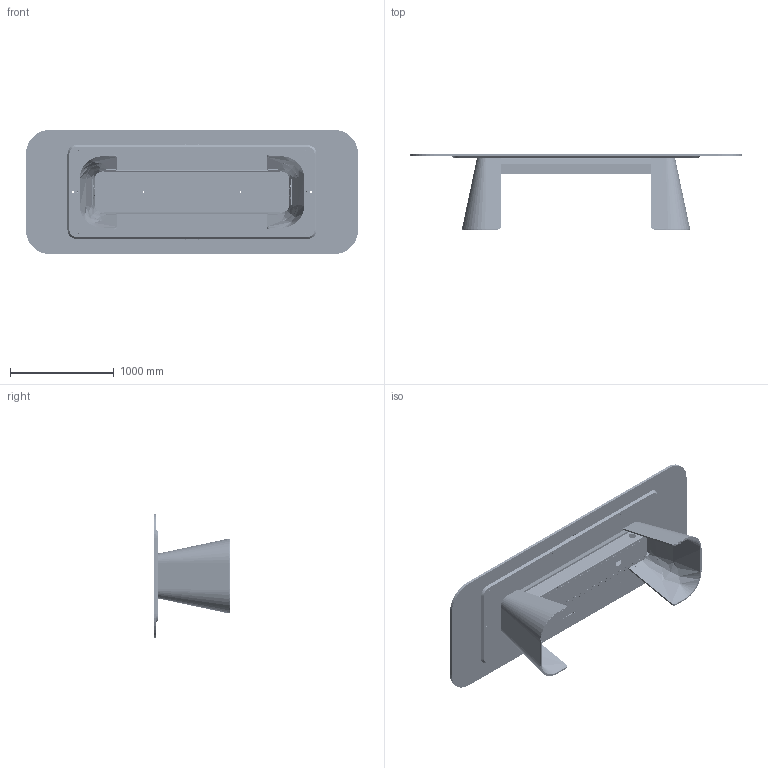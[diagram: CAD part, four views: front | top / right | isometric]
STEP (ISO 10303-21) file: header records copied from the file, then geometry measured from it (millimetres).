
FILE_DESCRIPTION (( 'STEP AP214' ), '1' );
FILE_NAME ('Alta 3200mm x 1200mm Boardroom Table.STEP', '2024-05-14T12:35:56', ( '' ), ( '' ), 'SwSTEP 2.0', 'SolidWorks 2023', '' );
FILE_SCHEMA (( 'AUTOMOTIVE_DESIGN' ));
Length unit declared in the file: millimetre
Products named in the file (24): socket countersunk head screw_bsi-Craig-SurfacePro_1901150; 747 0001_747 0008; 747 1021_1030_747 1028; HPS-6.5-15-7.5-PA; socket countersunk head screw_bsi-Craig-SurfacePro_2691180; 747 1100_1110_747 1104; 747 0030_747 0036; 747 0033_747 0037; LOW011_LOW011; 747 0100_0110_747 0101; 262_96_222; 747 1001_747 1008; socket countersunk head screw_bsi-Precision5820-1-2_1901310; 3351032_3351032; 747 1011_1014_747 1018; 747 0006_0007_747 0011; 747 0017_0029_747 0025; 747 1003_747 1068; 3351000_3351000; 747 1111_1120_747 1115; Alta 3200mm x 1200mm Boardroom Table; 3351030_3351030; SSBF-M8-16-10_9; SSBF-M6-16-A2-BL
Assembly tree (104 placements, depth 6):
  Alta 3200mm x 1200mm Boardroom Table
    747 1100_1110_747 1104
      747 1011_1014_747 1018
        747 1003_747 1068  x2
          747 1001_747 1008
            747 0001_747 0008
            3351032_3351032  x8
            3351000_3351000  x5
          747 0100_0110_747 0101
          LOW011_LOW011
          socket countersunk head screw_bsi-Craig-SurfacePro_1901150
        747 0030_747 0036  x2
        747 0033_747 0037
        SSBF-M8-16-10_9  x16
        HPS-6.5-15-7.5-PA  x8
        SSBF-M6-16-A2-BL  x8
      747 0006_0007_747 0011
      socket countersunk head screw_bsi-Craig-SurfacePro_2691180  x10
    747 1111_1120_747 1115
      747 1021_1030_747 1028  x2
        747 0017_0029_747 0025
        3351030_3351030
      262_96_222  x4
    socket countersunk head screw_bsi-Precision5820-1-2_1901310  x14
Bounding box: 3200 x 739 x 1200 mm (x, y, z)
Volume: 163089500.3 mm3; surface area: 18772595.6 mm2
Topology: 152 solids, 152 shells, 5615 faces, 13007 edges, 7786 vertices
Faces by surface type: cylinder 1935, plane 1928, cone 1482, bspline 208, torus 58, sphere 4
Full cylindrical faces by diameter (mm): 4.8 x128, 5 x46, 5.5 x10, 6 x1050, 6.5 x8, 8 x298, 9.43 x10, 10 x22, 11 x32, 11.34 x24, 12 x26, 13.2 x16, 15 x20, 25 x4, 50 x5, 75 x4, 80 x2
Entity records: 42890 total; most frequent: CARTESIAN_POINT 24617, DIRECTION 3809, ORIENTED_EDGE 2982, AXIS2_PLACEMENT_3D 1508, EDGE_CURVE 1491, EDGE_LOOP 1264, VERTEX_POINT 1093, FACE_OUTER_BOUND 932
